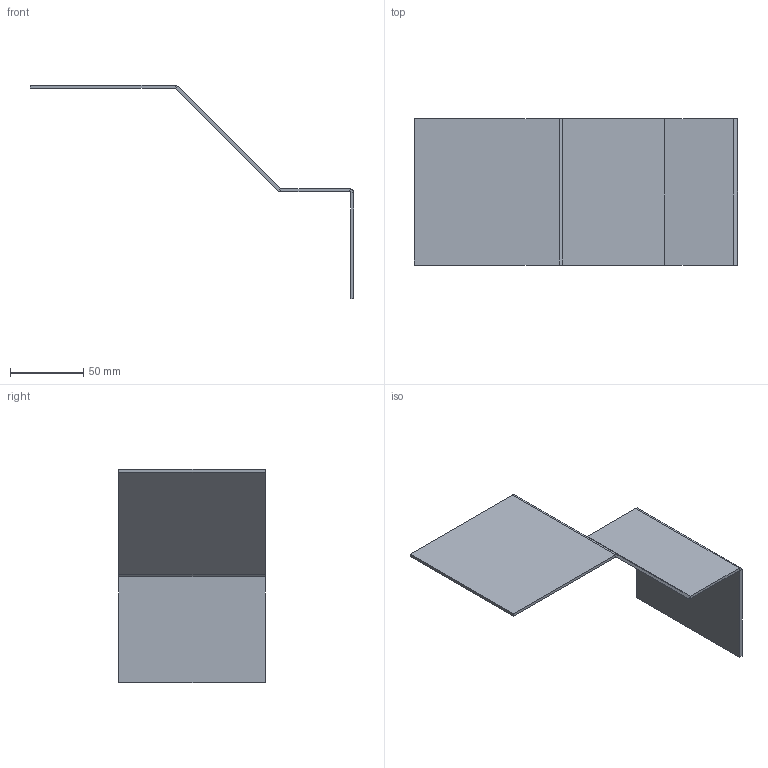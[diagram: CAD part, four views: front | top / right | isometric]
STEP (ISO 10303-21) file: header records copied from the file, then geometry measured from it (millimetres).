
FILE_DESCRIPTION((''),'2;1');
FILE_NAME('20150119_ABWICKELTEST','2015-01-19T',('Felix Fabian'),('Fabian Industrie-Design'),'PRO/ENGINEER BY PARAMETRIC TECHNOLOGY CORPORATION, 2013430','PRO/ENGINEER BY PARAMETRIC TECHNOLOGY CORPORATION, 2013430','');
FILE_SCHEMA(('CONFIG_CONTROL_DESIGN'));
Length unit declared in the file: millimetre
Products named in the file (1): 20150119_ABWICKELTEST
Bounding box: 220.71 x 100 x 145.71 mm (x, y, z)
Volume: 64419.7 mm3; surface area: 66108.1 mm2
Topology: 1 solids, 1 shells, 30 faces, 125 edges, 162 vertices
Faces by surface type: plane 24, cylinder 6
Entity records: 1120 total; most frequent: DIRECTION 203, CARTESIAN_POINT 188, ORIENTED_EDGE 120, VECTOR 109, LINE 109, TRIMMED_CURVE 65, EDGE_CURVE 60, AXIS2_PLACEMENT_3D 47
